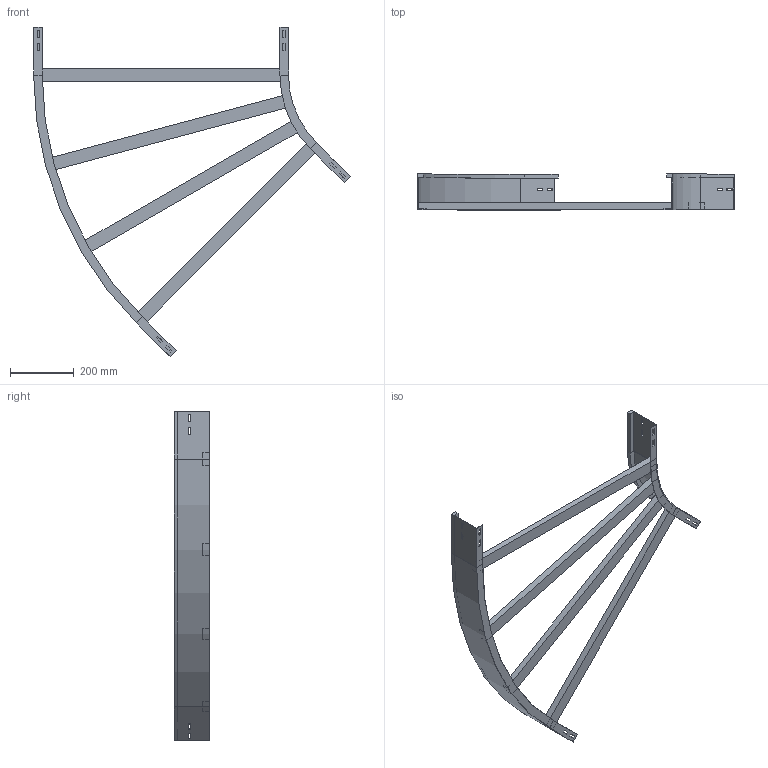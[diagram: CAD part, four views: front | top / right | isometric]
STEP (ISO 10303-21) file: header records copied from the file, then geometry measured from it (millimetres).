
FILE_DESCRIPTION (( 'STEP AP214' ), '1' );
FILE_NAME ('A2_11B3J800.step', '2025-02-21T15:14:34', ( '' ), ( '' ), 'SwSTEP 2.0', 'SolidWorks 2023', '' );
FILE_SCHEMA (( 'AUTOMOTIVE_DESIGN' ));
Length unit declared in the file: millimetre
Products named in the file (4): A2_LONGH.ESTERNO 45°_H112.5_R300+800; A2_LONGH.INTERNO 45°_H112.5_R300; TRAVERSINO_800; A2_11B3J800
Assembly tree (6 placements, depth 2):
  A2_11B3J800
    A2_LONGH.INTERNO 45°_H112.5_R300
    A2_LONGH.ESTERNO 45°_H112.5_R300+800
    TRAVERSINO_800  x4
Bounding box: 993.93 x 112.5 x 1033.88 mm (x, y, z)
Volume: 3367805.3 mm3; surface area: 919102.4 mm2
Topology: 6 solids, 6 shells, 140 faces, 352 edges, 224 vertices
Faces by surface type: plane 132, cylinder 8
Entity records: 3829 total; most frequent: CARTESIAN_POINT 647, ORIENTED_EDGE 632, DIRECTION 594, EDGE_CURVE 316, VECTOR 300, LINE 300, VERTEX_POINT 200, EDGE_LOOP 154
